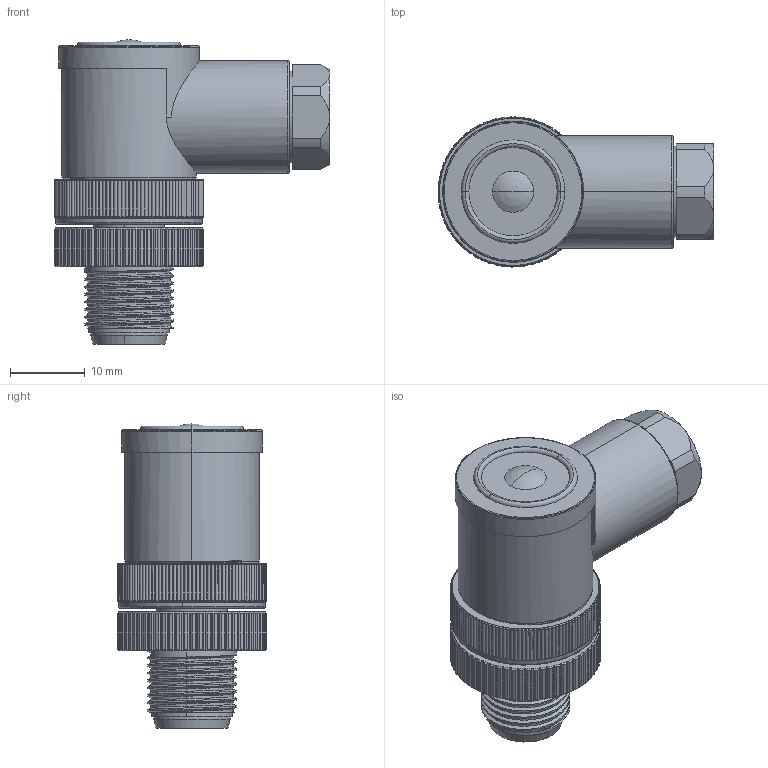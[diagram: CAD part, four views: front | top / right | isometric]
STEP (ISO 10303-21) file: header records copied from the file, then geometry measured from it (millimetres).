
FILE_DESCRIPTION((''),'2;1');
FILE_NAME('XC-M12-RWK-PG7','2025-06-21T09:30:44',('lyj'),(''),'CREO PARAMETRIC BY PTC INC, 2019010','CREO PARAMETRIC BY PTC INC, 2019010','');
FILE_SCHEMA(('CONFIG_CONTROL_DESIGN'));
Length unit declared in the file: millimetre
Products named in the file (1): XC-M12-RWK-PG7
Bounding box: 36.8 x 20 x 40.6 mm (x, y, z)
Volume: 7957.8 mm3; surface area: 11467.7 mm2
Topology: 1 solids, 10 shells, 1397 faces, 3760 edges, 2414 vertices
Faces by surface type: cylinder 580, cone 393, plane 329, bspline 41, extrusion 28, torus 16, sphere 10
Entity records: 79758 total; most frequent: CARTESIAN_POINT 46333, ORIENTED_EDGE 7500, DIRECTION 6365, EDGE_CURVE 3750, AXIS2_PLACEMENT_3D 2549, VERTEX_POINT 2414, EDGE_LOOP 1472, FACE_OUTER_BOUND 1397
